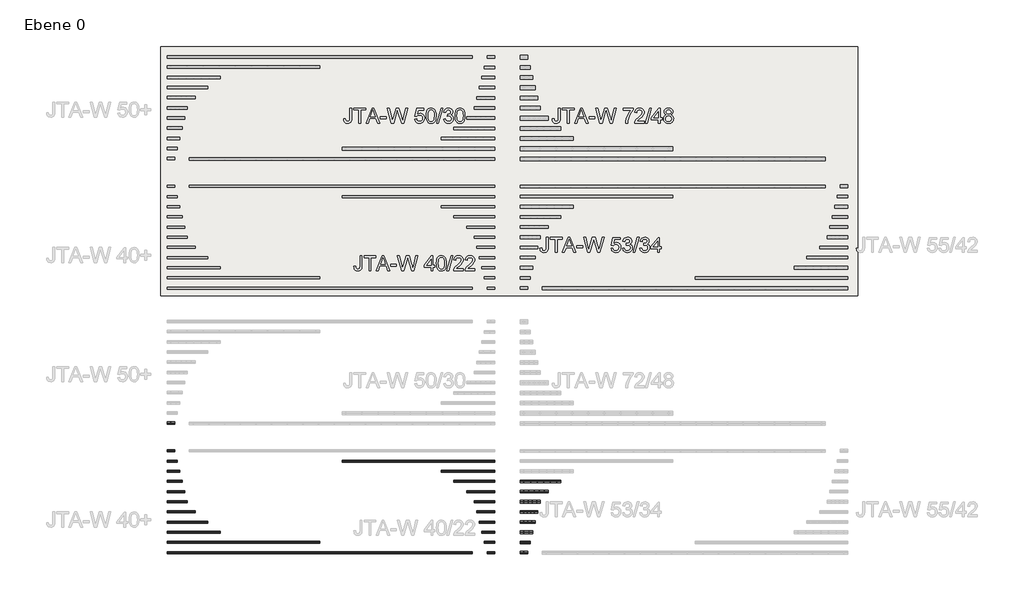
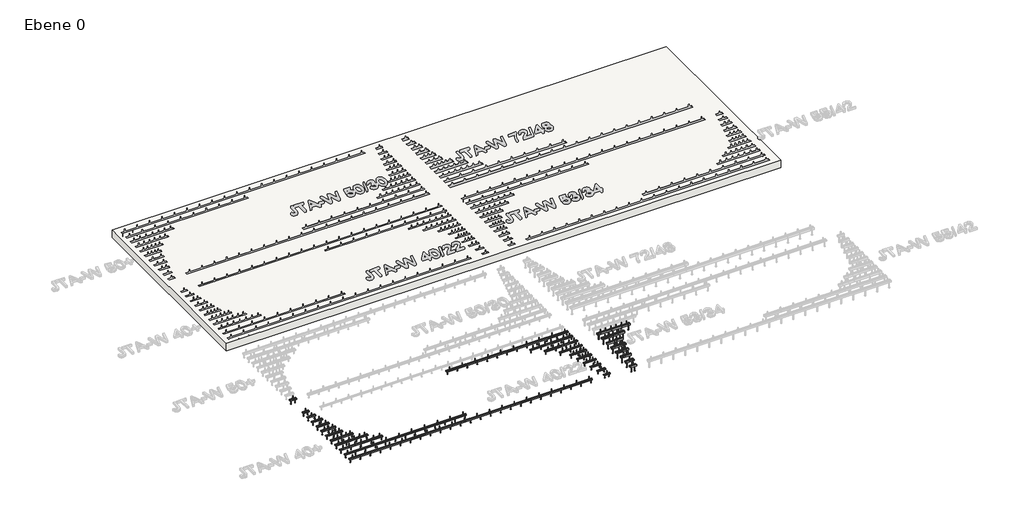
# One storey, part 1 of 5: 30 fasteners, 1 slab.
"""IFC4 building model written with IfcOpenShell, lengths in millimetres."""

from ifc_helpers import new_model, si_unit, origin, place, context, project, spatial, faceted_brep, transform, mapped, element, save
from components import fastener_29043b39, fastener_6a5caa7f, fastener_70fd4501, fastener_dd962dd3, fastener_63425f2b, fastener_02e16a5b, fastener_7793e029, fastener_10b2d5fe, fastener_78868887, fastener_e7c263a5, fastener_f3c3fdf5, fastener_d3d58a7e, fastener_ccbf12a1, fastener_12655446, fastener_6a6cae50, fastener_07762de3, fastener_856946d6, fastener_4e789cc8, fastener_1a17a586, fastener_d3d8a801, fastener_fac80bb2, fastener_f6934170, fastener_d2bac832, fastener_f3e18b2c, fastener_079a92b3, fastener_619edde3, fastener_78b8b859, fastener_af873e41, fastener_db2bdcac, fastener_4b748c20, fastener_e20cea6d, fastener_a5573b8c, fastener_95f84b24, fastener_7f6a9965, fastener_aa8f82e4

model = new_model("IFC4")

# Units and contexts
model_context = context("Model", 3, world=origin())
ifc_project = project(units=[si_unit("LENGTHUNIT", "METRE", prefix="MILLI")], contexts=[model_context])

# Site, building, storey
site = spatial("IfcSite", under=ifc_project)
building = spatial("IfcBuilding", under=site)
storey = spatial("IfcBuildingStorey", under=building, Name="Ebene 0", Elevation=0.0)

# Fasteners
placement = place(None, origin())
fastener_shape = fastener_29043b39(model_context)
element("IfcFastener", 1, ObjectType="JTA-W JORDAHL® AnchorChannels : JTA-W L=300 mm", at=placement, inside=storey, context=model_context, shape_type="MappedRepresentation", body=[
    mapped(fastener_shape, transform((-7643.969712, -1180.7365413, 0.0), x_axis=(1.0, 0.0, 0.0), y_axis=(0.0, 1.0, 0.0), z_axis=(0.0, 0.0, 1.0))),
])
fastener_2_shape = fastener_6a5caa7f(model_context)
fastener_3_shape = fastener_70fd4501(model_context)
fastener_4_shape = fastener_dd962dd3(model_context)
fastener_5_shape = fastener_63425f2b(model_context)
element("IfcFastener", 2, ObjectType="JTA-W JORDAHL® AnchorChannels : JTA-W L=6000 mm", at=placement, inside=storey, context=model_context, shape_type="MappedRepresentation", body=[
    mapped(fastener_2_shape, transform((-7643.969712, -2580.7365413, 0.0), x_axis=(1.0, 0.0, 0.0), y_axis=(0.0, 1.0, 0.0), z_axis=(0.0, 0.0, 1.0))),
    mapped(fastener_3_shape, transform((-7643.969712, -2580.7365413, 0.0), x_axis=(1.0, 0.0, 0.0), y_axis=(0.0, 1.0, 0.0), z_axis=(0.0, 0.0, 1.0))),
    mapped(fastener_4_shape, transform((-7643.969712, -2580.7365413, 0.0), x_axis=(1.0, 0.0, 0.0), y_axis=(0.0, 1.0, 0.0), z_axis=(0.0, 0.0, 1.0))),
    mapped(fastener_5_shape, transform((-7643.969712, -2580.7365413, 0.0), x_axis=(1.0, 0.0, 0.0), y_axis=(0.0, 1.0, 0.0), z_axis=(0.0, 0.0, 1.0))),
])
fastener_6_shape = fastener_02e16a5b(model_context)
fastener_7_shape = fastener_7793e029(model_context)
element("IfcFastener", 3, ObjectType="JTA-W JORDAHL® AnchorChannels : JTA-W L=3000 mm", at=placement, inside=storey, context=model_context, shape_type="MappedRepresentation", body=[
    mapped(fastener_6_shape, transform((-7643.969712, -2380.7365413, 0.0), x_axis=(1.0, 0.0, 0.0), y_axis=(0.0, 1.0, 0.0), z_axis=(0.0, 0.0, 1.0))),
    mapped(fastener_7_shape, transform((-7643.969712, -2380.7365413, 0.0), x_axis=(1.0, 0.0, 0.0), y_axis=(0.0, 1.0, 0.0), z_axis=(0.0, 0.0, 1.0))),
])
fastener_8_shape = fastener_10b2d5fe(model_context)
element("IfcFastener", 4, ObjectType="JTA-W JORDAHL® AnchorChannels : JTA-W L=1050 mm", at=placement, inside=storey, context=model_context, shape_type="MappedRepresentation", body=[
    mapped(fastener_8_shape, transform((-7643.969712, -2180.7365413, 0.0), x_axis=(1.0, 0.0, 0.0), y_axis=(0.0, 1.0, 0.0), z_axis=(0.0, 0.0, 1.0))),
])
fastener_9_shape = fastener_78868887(model_context)
element("IfcFastener", 5, ObjectType="JTA-W JORDAHL® AnchorChannels : JTA-W L=800 mm", at=placement, inside=storey, context=model_context, shape_type="MappedRepresentation", body=[
    mapped(fastener_9_shape, transform((-7643.969712, -1980.7365413, 0.0), x_axis=(1.0, 0.0, 0.0), y_axis=(0.0, 1.0, 0.0), z_axis=(0.0, 0.0, 1.0))),
])
fastener_10_shape = fastener_e7c263a5(model_context)
element("IfcFastener", 6, ObjectType="JTA-W JORDAHL® AnchorChannels : JTA-W L=550 mm", at=placement, inside=storey, context=model_context, shape_type="MappedRepresentation", body=[
    mapped(fastener_10_shape, transform((-7643.969712, -1780.7365413, 0.0), x_axis=(1.0, 0.0, 0.0), y_axis=(0.0, 1.0, 0.0), z_axis=(0.0, 0.0, 1.0))),
])
fastener_11_shape = fastener_f3c3fdf5(model_context)
element("IfcFastener", 7, ObjectType="JTA-W JORDAHL® AnchorChannels : JTA-W L=400 mm", at=placement, inside=storey, context=model_context, shape_type="MappedRepresentation", body=[
    mapped(fastener_11_shape, transform((-7643.969712, -1580.7365413, 0.0), x_axis=(1.0, 0.0, 0.0), y_axis=(0.0, 1.0, 0.0), z_axis=(0.0, 0.0, 1.0))),
])
fastener_12_shape = fastener_d3d58a7e(model_context)
element("IfcFastener", 8, ObjectType="JTA-W JORDAHL® AnchorChannels : JTA-W L=350 mm", at=placement, inside=storey, context=model_context, shape_type="MappedRepresentation", body=[
    mapped(fastener_12_shape, transform((-7643.969712, -1380.7365413, 0.0), x_axis=(1.0, 0.0, 0.0), y_axis=(0.0, 1.0, 0.0), z_axis=(0.0, 0.0, 1.0))),
])
fastener_13_shape = fastener_ccbf12a1(model_context)
element("IfcFastener", 9, ObjectType="JTA-W JORDAHL® AnchorChannels : JTA-W L=250 mm", at=placement, inside=storey, context=model_context, shape_type="MappedRepresentation", body=[
    mapped(fastener_13_shape, transform((-7643.969712, -980.7365413, 0.0), x_axis=(1.0, 0.0, 0.0), y_axis=(0.0, 1.0, 0.0), z_axis=(0.0, 0.0, 1.0))),
])
fastener_14_shape = fastener_12655446(model_context)
element("IfcFastener", 10, ObjectType="JTA-W JORDAHL® AnchorChannels : JTA-W L=200 mm", at=placement, inside=storey, context=model_context, shape_type="MappedRepresentation", body=[
    mapped(fastener_14_shape, transform((-7643.969712, -780.7365413, 0.0), x_axis=(1.0, 0.0, 0.0), y_axis=(0.0, 1.0, 0.0), z_axis=(0.0, 0.0, 1.0))),
])
fastener_15_shape = fastener_6a6cae50(model_context)
element("IfcFastener", 11, ObjectType="JTA-W JORDAHL® AnchorChannels : JTA-W L=150 mm", at=placement, inside=storey, context=model_context, shape_type="MappedRepresentation", body=[
    mapped(fastener_15_shape, transform((-7643.969712, -580.7365413, 0.0), x_axis=(1.0, 0.0, 0.0), y_axis=(0.0, 1.0, 0.0), z_axis=(0.0, 0.0, 1.0))),
])
fastener_16_shape = fastener_07762de3(model_context)
element("IfcFastener", 12, ObjectType="JTA-W JORDAHL® AnchorChannels : JTA-W L=150 mm", at=placement, inside=storey, context=model_context, shape_type="MappedRepresentation", body=[
    mapped(fastener_16_shape, transform((-7643.969712, -35.6932626, 0.0), x_axis=(1.0, 0.0, 0.0), y_axis=(0.0, 1.0, 0.0), z_axis=(0.0, 0.0, 1.0))),
])
fastener_17_shape = fastener_856946d6(model_context)
element("IfcFastener", 13, ObjectType="JTA-W JORDAHL® AnchorChannels : JTA-W L=150 mm", at=placement, inside=storey, context=model_context, shape_type="MappedRepresentation", body=[
    mapped(fastener_17_shape, transform((-1203.969712, -2580.7365413, 0.0), x_axis=(-1.0, 0.0, 0.0), y_axis=(0.0, -1.0, 0.0), z_axis=(0.0, 0.0, 1.0))),
])
fastener_18_shape = fastener_4e789cc8(model_context)
element("IfcFastener", 14, ObjectType="JTA-W JORDAHL® AnchorChannels : JTA-W L=200 mm", at=placement, inside=storey, context=model_context, shape_type="MappedRepresentation", body=[
    mapped(fastener_18_shape, transform((-1203.969712, -2380.7365413, 0.0), x_axis=(-1.0, 0.0, 0.0), y_axis=(0.0, -1.0, 0.0), z_axis=(0.0, 0.0, 1.0))),
])
fastener_19_shape = fastener_1a17a586(model_context)
element("IfcFastener", 15, ObjectType="JTA-W JORDAHL® AnchorChannels : JTA-W L=250 mm", at=placement, inside=storey, context=model_context, shape_type="MappedRepresentation", body=[
    mapped(fastener_19_shape, transform((-1203.969712, -2180.7365413, 0.0), x_axis=(-1.0, 0.0, 0.0), y_axis=(0.0, -1.0, 0.0), z_axis=(0.0, 0.0, 1.0))),
])
fastener_20_shape = fastener_d3d8a801(model_context)
element("IfcFastener", 16, ObjectType="JTA-W JORDAHL® AnchorChannels : JTA-W L=300 mm", at=placement, inside=storey, context=model_context, shape_type="MappedRepresentation", body=[
    mapped(fastener_20_shape, transform((-1203.969712, -1980.7365413, 0.0), x_axis=(-1.0, 0.0, 0.0), y_axis=(0.0, -1.0, 0.0), z_axis=(0.0, 0.0, 1.0))),
])
fastener_21_shape = fastener_fac80bb2(model_context)
element("IfcFastener", 17, ObjectType="JTA-W JORDAHL® AnchorChannels : JTA-W L=350 mm", at=placement, inside=storey, context=model_context, shape_type="MappedRepresentation", body=[
    mapped(fastener_21_shape, transform((-1203.969712, -1780.7365413, 0.0), x_axis=(-1.0, 0.0, 0.0), y_axis=(0.0, -1.0, 0.0), z_axis=(0.0, 0.0, 1.0))),
])
fastener_22_shape = fastener_f6934170(model_context)
element("IfcFastener", 18, ObjectType="JTA-W JORDAHL® AnchorChannels : JTA-W L=400 mm", at=placement, inside=storey, context=model_context, shape_type="MappedRepresentation", body=[
    mapped(fastener_22_shape, transform((-1203.969712, -1580.7365413, 0.0), x_axis=(-1.0, 0.0, 0.0), y_axis=(0.0, -1.0, 0.0), z_axis=(0.0, 0.0, 1.0))),
])
fastener_23_shape = fastener_d2bac832(model_context)
element("IfcFastener", 19, ObjectType="JTA-W JORDAHL® AnchorChannels : JTA-W L=550 mm", at=placement, inside=storey, context=model_context, shape_type="MappedRepresentation", body=[
    mapped(fastener_23_shape, transform((-1203.969712, -1380.7365413, 0.0), x_axis=(-1.0, 0.0, 0.0), y_axis=(0.0, -1.0, 0.0), z_axis=(0.0, 0.0, 1.0))),
])
fastener_24_shape = fastener_f3e18b2c(model_context)
element("IfcFastener", 20, ObjectType="JTA-W JORDAHL® AnchorChannels : JTA-W L=800 mm", at=placement, inside=storey, context=model_context, shape_type="MappedRepresentation", body=[
    mapped(fastener_24_shape, transform((-1203.969712, -1180.7365413, 0.0), x_axis=(-1.0, 0.0, 0.0), y_axis=(0.0, -1.0, 0.0), z_axis=(0.0, 0.0, 1.0))),
])
fastener_25_shape = fastener_079a92b3(model_context)
element("IfcFastener", 21, ObjectType="JTA-W JORDAHL® AnchorChannels : JTA-W L=1050 mm", at=placement, inside=storey, context=model_context, shape_type="MappedRepresentation", body=[
    mapped(fastener_25_shape, transform((-1203.969712, -980.7365413, 0.0), x_axis=(-1.0, 0.0, 0.0), y_axis=(0.0, -1.0, 0.0), z_axis=(0.0, 0.0, 1.0))),
])
fastener_26_shape = fastener_619edde3(model_context)
fastener_27_shape = fastener_78b8b859(model_context)
element("IfcFastener", 22, ObjectType="JTA-W JORDAHL® AnchorChannels : JTA-W L=3000 mm", at=placement, inside=storey, context=model_context, shape_type="MappedRepresentation", body=[
    mapped(fastener_26_shape, transform((-1203.969712, -780.7365413, 0.0), x_axis=(-1.0, 0.0, 0.0), y_axis=(0.0, -1.0, 0.0), z_axis=(0.0, 0.0, 1.0))),
    mapped(fastener_27_shape, transform((-1203.969712, -780.7365413, 0.0), x_axis=(-1.0, 0.0, 0.0), y_axis=(0.0, -1.0, 0.0), z_axis=(0.0, 0.0, 1.0))),
])
fastener_28_shape = fastener_af873e41(model_context)
element("IfcFastener", 23, ObjectType="JTA-W JORDAHL® AnchorChannels : JTA-W L=150 mm", at=placement, inside=storey, context=model_context, shape_type="MappedRepresentation", body=[
    mapped(fastener_28_shape, transform((-703.969712, -2580.7365413, 0.0), x_axis=(1.0, 0.0, 0.0), y_axis=(0.0, 1.0, 0.0), z_axis=(0.0, 0.0, 1.0))),
])
fastener_29_shape = fastener_db2bdcac(model_context)
element("IfcFastener", 24, ObjectType="JTA-W JORDAHL® AnchorChannels : JTA-W L=200 mm", at=placement, inside=storey, context=model_context, shape_type="MappedRepresentation", body=[
    mapped(fastener_29_shape, transform((-703.969712, -2380.7365413, 0.0), x_axis=(1.0, 0.0, 0.0), y_axis=(0.0, 1.0, 0.0), z_axis=(0.0, 0.0, 1.0))),
])
fastener_30_shape = fastener_4b748c20(model_context)
element("IfcFastener", 25, ObjectType="JTA-W JORDAHL® AnchorChannels : JTA-W L=250 mm", at=placement, inside=storey, context=model_context, shape_type="MappedRepresentation", body=[
    mapped(fastener_30_shape, transform((-703.969712, -2180.7365413, 0.0), x_axis=(1.0, 0.0, 0.0), y_axis=(0.0, 1.0, 0.0), z_axis=(0.0, 0.0, 1.0))),
])
fastener_31_shape = fastener_e20cea6d(model_context)
element("IfcFastener", 26, ObjectType="JTA-W JORDAHL® AnchorChannels : JTA-W L=300 mm", at=placement, inside=storey, context=model_context, shape_type="MappedRepresentation", body=[
    mapped(fastener_31_shape, transform((-703.969712, -1980.7365413, 0.0), x_axis=(1.0, 0.0, 0.0), y_axis=(0.0, 1.0, 0.0), z_axis=(0.0, 0.0, 1.0))),
])
fastener_32_shape = fastener_a5573b8c(model_context)
element("IfcFastener", 27, ObjectType="JTA-W JORDAHL® AnchorChannels : JTA-W L=350 mm", at=placement, inside=storey, context=model_context, shape_type="MappedRepresentation", body=[
    mapped(fastener_32_shape, transform((-703.969712, -1780.7365413, 0.0), x_axis=(1.0, 0.0, 0.0), y_axis=(0.0, 1.0, 0.0), z_axis=(0.0, 0.0, 1.0))),
])
fastener_33_shape = fastener_95f84b24(model_context)
element("IfcFastener", 28, ObjectType="JTA-W JORDAHL® AnchorChannels : JTA-W L=400 mm", at=placement, inside=storey, context=model_context, shape_type="MappedRepresentation", body=[
    mapped(fastener_33_shape, transform((-703.969712, -1580.7365413, 0.0), x_axis=(1.0, 0.0, 0.0), y_axis=(0.0, 1.0, 0.0), z_axis=(0.0, 0.0, 1.0))),
])
fastener_34_shape = fastener_7f6a9965(model_context)
element("IfcFastener", 29, ObjectType="JTA-W JORDAHL® AnchorChannels : JTA-W L=550 mm", at=placement, inside=storey, context=model_context, shape_type="MappedRepresentation", body=[
    mapped(fastener_34_shape, transform((-703.969712, -1380.7365413, 0.0), x_axis=(1.0, 0.0, 0.0), y_axis=(0.0, 1.0, 0.0), z_axis=(0.0, 0.0, 1.0))),
])
fastener_35_shape = fastener_aa8f82e4(model_context)
element("IfcFastener", 30, ObjectType="JTA-W JORDAHL® AnchorChannels : JTA-W L=800 mm", at=placement, inside=storey, context=model_context, shape_type="MappedRepresentation", body=[
    mapped(fastener_35_shape, transform((-703.969712, -1180.7365413, 0.0), x_axis=(1.0, 0.0, 0.0), y_axis=(0.0, 1.0, 0.0), z_axis=(0.0, 0.0, 1.0))),
])

# Slab
element("IfcSlab", 31, ObjectType="STB 20.0", at=placement, inside=storey, context=model_context, shape_type="Brep", body=[
    faceted_brep([(5934.7494965, 7368.5000502, -200.0), (5934.7494965, 2468.5000502, -200.0), (-7765.2505035, 2468.5000502, -200.0), (-7765.2505035, 7368.5000502, -200.0), (5934.7494965, 2468.5000502, 0.0), (5934.7494965, 7368.5000502, 0.0), (-7765.2505035, 7368.5000502, 0.0), (-7765.2505035, 2468.5000502, 0.0), (-7643.969712, 2599.2634587, 0.0), (-7643.969712, 2639.2634587, 0.0), (-1643.969712, 2639.2634587, 0.0), (-1643.969712, 2599.2634587, 0.0), (-4643.969712, 2839.2634587, 0.0), (-4643.969712, 2799.2634587, 0.0), (-7643.969712, 2799.2634587, 0.0), (-7643.969712, 2839.2634587, 0.0), (-6593.969712, 3039.2634587, 0.0), (-6593.969712, 2999.2634587, 0.0), (-7643.969712, 2999.2634587, 0.0), (-7643.969712, 3039.2634587, 0.0), (-6843.969712, 3239.2634587, 0.0), (-6843.969712, 3199.2634587, 0.0), (-7643.969712, 3199.2634587, 0.0), (-7643.969712, 3239.2634587, 0.0), (-7093.969712, 3439.2634587, 0.0), (-7093.969712, 3399.2634587, 0.0), (-7643.969712, 3399.2634587, 0.0), (-7643.969712, 3439.2634587, 0.0), (-7243.969712, 3639.2634587, 0.0), (-7243.969712, 3599.2634587, 0.0), (-7643.969712, 3599.2634587, 0.0), (-7643.969712, 3639.2634587, 0.0), (-7293.969712, 3839.2634587, 0.0), (-7293.969712, 3799.2634587, 0.0), (-7643.969712, 3799.2634587, 0.0), (-7643.969712, 3839.2634587, 0.0), (-7343.969712, 4039.2634587, 0.0), (-7343.969712, 3999.2634587, 0.0), (-7643.969712, 3999.2634587, 0.0), (-7643.969712, 4039.2634587, 0.0), (-7393.969712, 4239.2634587, 0.0), (-7393.969712, 4199.2634587, 0.0), (-7643.969712, 4199.2634587, 0.0), (-7643.969712, 4239.2634587, 0.0), (-7443.969712, 4439.2634587, 0.0), (-7443.969712, 4399.2634587, 0.0), (-7643.969712, 4399.2634587, 0.0), (-7643.969712, 4439.2634587, 0.0), (-7493.969712, 4639.2634587, 0.0), (-7493.969712, 4599.2634587, 0.0), (-7643.969712, 4599.2634587, 0.0), (-7643.969712, 4639.2634587, 0.0), (-1643.969712, 7189.3067374, 0.0), (-1643.969712, 7139.3067374, 0.0), (-7643.969712, 7139.3067374, 0.0), (-7643.969712, 7189.3067374, 0.0), (-4643.969712, 6989.3067374, 0.0), (-4643.969712, 6939.3067374, 0.0), (-7643.969712, 6939.3067374, 0.0), (-7643.969712, 6989.3067374, 0.0), (-6593.969712, 6789.3067374, 0.0), (-6593.969712, 6739.3067374, 0.0), (-7643.969712, 6739.3067374, 0.0), (-7643.969712, 6789.3067374, 0.0), (-6843.969712, 6589.3067374, 0.0), (-6843.969712, 6539.3067374, 0.0), (-7643.969712, 6539.3067374, 0.0), (-7643.969712, 6589.3067374, 0.0), (-7093.969712, 6389.3067374, 0.0), (-7093.969712, 6339.3067374, 0.0), (-7643.969712, 6339.3067374, 0.0), (-7643.969712, 6389.3067374, 0.0), (-7243.969712, 6189.3067374, 0.0), (-7243.969712, 6139.3067374, 0.0), (-7643.969712, 6139.3067374, 0.0), (-7643.969712, 6189.3067374, 0.0), (-7293.969712, 5989.3067374, 0.0), (-7293.969712, 5939.3067374, 0.0), (-7643.969712, 5939.3067374, 0.0), (-7643.969712, 5989.3067374, 0.0), (-7343.969712, 5789.3067374, 0.0), (-7343.969712, 5739.3067374, 0.0), (-7643.969712, 5739.3067374, 0.0), (-7643.969712, 5789.3067374, 0.0), (-7393.969712, 5589.3067374, 0.0), (-7393.969712, 5539.3067374, 0.0), (-7643.969712, 5539.3067374, 0.0), (-7643.969712, 5589.3067374, 0.0), (-7443.969712, 5389.3067374, 0.0), (-7443.969712, 5339.3067374, 0.0), (-7643.969712, 5339.3067374, 0.0), (-7643.969712, 5389.3067374, 0.0), (-7493.969712, 5189.3067374, 0.0), (-7493.969712, 5139.3067374, 0.0), (-7643.969712, 5139.3067374, 0.0), (-7643.969712, 5189.3067374, 0.0), (-1353.969712, 2599.5134587, 0.0), (-1353.969712, 2639.0134587, 0.0), (-1203.969712, 2639.0134587, 0.0), (-1203.969712, 2599.5134587, 0.0), (-1403.969712, 2799.5134587, 0.0), (-1403.969712, 2839.0134587, 0.0), (-1203.969712, 2839.0134587, 0.0), (-1203.969712, 2799.5134587, 0.0), (-1453.969712, 2999.5134587, 0.0), (-1453.969712, 3039.0134587, 0.0), (-1203.969712, 3039.0134587, 0.0), (-1203.969712, 2999.5134587, 0.0), (-1503.969712, 3199.5134587, 0.0), (-1503.969712, 3239.0134587, 0.0), (-1203.969712, 3239.0134587, 0.0), (-1203.969712, 3199.5134587, 0.0), (-1553.969712, 3399.5134587, 0.0), (-1553.969712, 3439.0134587, 0.0), (-1203.969712, 3439.0134587, 0.0), (-1203.969712, 3399.5134587, 0.0), (-1603.969712, 3599.5134587, 0.0), (-1603.969712, 3639.0134587, 0.0), (-1203.969712, 3639.0134587, 0.0), (-1203.969712, 3599.5134587, 0.0), (-1753.969712, 3799.5134587, 0.0), (-1753.969712, 3839.0134587, 0.0), (-1203.969712, 3839.0134587, 0.0), (-1203.969712, 3799.5134587, 0.0), (-2003.969712, 3999.5134587, 0.0), (-2003.969712, 4039.0134587, 0.0), (-1203.969712, 4039.0134587, 0.0), (-1203.969712, 3999.5134587, 0.0), (-2253.969712, 4199.5134587, 0.0), (-2253.969712, 4239.0134587, 0.0), (-1203.969712, 4239.0134587, 0.0), (-1203.969712, 4199.5134587, 0.0), (-4203.969712, 4399.5134587, 0.0), (-4203.969712, 4439.0134587, 0.0), (-1203.969712, 4439.0134587, 0.0), (-1203.969712, 4399.5134587, 0.0), (-7203.969712, 4599.5134587, 0.0), (-7203.969712, 4639.0134587, 0.0), (-1203.969712, 4639.0134587, 0.0), (-1203.969712, 4599.5134587, 0.0), (-1353.969712, 7134.5134587, 0.0), (-1353.969712, 7184.0134587, 0.0), (-1203.969712, 7184.0134587, 0.0), (-1203.969712, 7134.5134587, 0.0), (-1403.969712, 6934.5134587, 0.0), (-1403.969712, 6984.0134587, 0.0), (-1203.969712, 6984.0134587, 0.0), (-1203.969712, 6934.5134587, 0.0), (-1453.969712, 6734.5134587, 0.0), (-1453.969712, 6784.0134587, 0.0), (-1203.969712, 6784.0134587, 0.0), (-1203.969712, 6734.5134587, 0.0), (-1503.969712, 6534.5134587, 0.0), (-1503.969712, 6584.0134587, 0.0), (-1203.969712, 6584.0134587, 0.0), (-1203.969712, 6534.5134587, 0.0), (-1553.969712, 6334.5134587, 0.0), (-1553.969712, 6384.0134587, 0.0), (-1203.969712, 6384.0134587, 0.0), (-1203.969712, 6334.5134587, 0.0), (-1603.969712, 6134.5134587, 0.0), (-1603.969712, 6184.0134587, 0.0), (-1203.969712, 6184.0134587, 0.0), (-1203.969712, 6134.5134587, 0.0), (-1753.969712, 5934.5134587, 0.0), (-1753.969712, 5984.0134587, 0.0), (-1203.969712, 5984.0134587, 0.0), (-1203.969712, 5934.5134587, 0.0), (-2003.969712, 5734.5134587, 0.0), (-2003.969712, 5784.0134587, 0.0), (-1203.969712, 5784.0134587, 0.0), (-1203.969712, 5734.5134587, 0.0), (-2253.969712, 5534.5134587, 0.0), (-2253.969712, 5584.0134587, 0.0), (-1203.969712, 5584.0134587, 0.0), (-1203.969712, 5534.5134587, 0.0), (-4203.969712, 5334.5134587, 0.0), (-4203.969712, 5384.0134587, 0.0), (-1203.969712, 5384.0134587, 0.0), (-1203.969712, 5334.5134587, 0.0), (-7203.969712, 5134.5134587, 0.0), (-7203.969712, 5184.0134587, 0.0), (-1203.969712, 5184.0134587, 0.0), (-1203.969712, 5134.5134587, 0.0), (-263.969712, 2591.7634587, 0.0), (-263.969712, 2646.7634587, 0.0), (5736.030288, 2646.7634587, 0.0), (5736.030288, 2591.7634587, 0.0), (2736.030288, 2791.7634587, 0.0), (2736.030288, 2846.7634587, 0.0), (5736.030288, 2846.7634587, 0.0), (5736.030288, 2791.7634587, 0.0), (4686.030288, 2991.7634587, 0.0), (4686.030288, 3046.7634587, 0.0), (5736.030288, 3046.7634587, 0.0), (5736.030288, 2991.7634587, 0.0), (4936.030288, 3191.7634587, 0.0), (4936.030288, 3246.7634587, 0.0), (5736.030288, 3246.7634587, 0.0), (5736.030288, 3191.7634587, 0.0), (5186.030288, 3391.7634587, 0.0), (5186.030288, 3446.7634587, 0.0), (5736.030288, 3446.7634587, 0.0), (5736.030288, 3391.7634587, 0.0), (5336.030288, 3591.7634587, 0.0), (5336.030288, 3646.7634587, 0.0), (5736.030288, 3646.7634587, 0.0), (5736.030288, 3591.7634587, 0.0), (5386.030288, 3791.7634587, 0.0), (5386.030288, 3846.7634587, 0.0), (5736.030288, 3846.7634587, 0.0), (5736.030288, 3791.7634587, 0.0), (5436.030288, 3991.7634587, 0.0), (5436.030288, 4046.7634587, 0.0), (5736.030288, 4046.7634587, 0.0), (5736.030288, 3991.7634587, 0.0), (5486.030288, 4191.7634587, 0.0), (5486.030288, 4246.7634587, 0.0), (5736.030288, 4246.7634587, 0.0), (5736.030288, 4191.7634587, 0.0), (5536.030288, 4391.7634587, 0.0), (5536.030288, 4446.7634587, 0.0), (5736.030288, 4446.7634587, 0.0), (5736.030288, 4391.7634587, 0.0), (5586.030288, 4591.7634587, 0.0), (5586.030288, 4646.7634587, 0.0), (5736.030288, 4646.7634587, 0.0), (5736.030288, 4591.7634587, 0.0), (-553.969712, 2645.7634587, 0.0), (-553.969712, 2592.7634587, 0.0), (-703.969712, 2592.7634587, 0.0), (-703.969712, 2645.7634587, 0.0), (-503.969712, 2845.7634587, 0.0), (-503.969712, 2792.7634587, 0.0), (-703.969712, 2792.7634587, 0.0), (-703.969712, 2845.7634587, 0.0), (-453.969712, 3045.7634587, 0.0), (-453.969712, 2992.7634587, 0.0), (-703.969712, 2992.7634587, 0.0), (-703.969712, 3045.7634587, 0.0), (-403.969712, 3245.7634587, 0.0), (-403.969712, 3192.7634587, 0.0), (-703.969712, 3192.7634587, 0.0), (-703.969712, 3245.7634587, 0.0), (-353.969712, 3445.7634587, 0.0), (-353.969712, 3392.7634587, 0.0), (-703.969712, 3392.7634587, 0.0), (-703.969712, 3445.7634587, 0.0), (-303.969712, 3645.7634587, 0.0), (-303.969712, 3592.7634587, 0.0), (-703.969712, 3592.7634587, 0.0), (-703.969712, 3645.7634587, 0.0), (-153.969712, 3845.7634587, 0.0), (-153.969712, 3792.7634587, 0.0), (-703.969712, 3792.7634587, 0.0), (-703.969712, 3845.7634587, 0.0), (96.030288, 4045.7634587, 0.0), (96.030288, 3992.7634587, 0.0), (-703.969712, 3992.7634587, 0.0), (-703.969712, 4045.7634587, 0.0), (346.030288, 4245.7634587, 0.0), (346.030288, 4192.7634587, 0.0), (-703.969712, 4192.7634587, 0.0), (-703.969712, 4245.7634587, 0.0), (2296.030288, 4445.7634587, 0.0), (2296.030288, 4392.7634587, 0.0), (-703.969712, 4392.7634587, 0.0), (-703.969712, 4445.7634587, 0.0), (5296.030288, 4645.7634587, 0.0), (5296.030288, 4592.7634587, 0.0), (-703.969712, 4592.7634587, 0.0), (-703.969712, 4645.7634587, 0.0), (-553.969712, 7195.2634587, 0.0), (-553.969712, 7123.2634587, 0.0), (-703.969712, 7123.2634587, 0.0), (-703.969712, 7195.2634587, 0.0), (-503.969712, 6995.2634587, 0.0), (-503.969712, 6923.2634587, 0.0), (-703.969712, 6923.2634587, 0.0), (-703.969712, 6995.2634587, 0.0), (-453.969712, 6795.2634587, 0.0), (-453.969712, 6723.2634587, 0.0), (-703.969712, 6723.2634587, 0.0), (-703.969712, 6795.2634587, 0.0), (-403.969712, 6595.2634587, 0.0), (-403.969712, 6523.2634587, 0.0), (-703.969712, 6523.2634587, 0.0), (-703.969712, 6595.2634587, 0.0), (-353.969712, 6395.2634587, 0.0), (-353.969712, 6323.2634587, 0.0), (-703.969712, 6323.2634587, 0.0), (-703.969712, 6395.2634587, 0.0), (-303.969712, 6195.2634587, 0.0), (-303.969712, 6123.2634587, 0.0), (-703.969712, 6123.2634587, 0.0), (-703.969712, 6195.2634587, 0.0), (-153.969712, 5995.2634587, 0.0), (-153.969712, 5923.2634587, 0.0), (-703.969712, 5923.2634587, 0.0), (-703.969712, 5995.2634587, 0.0), (96.030288, 5795.2634587, 0.0), (96.030288, 5723.2634587, 0.0), (-703.969712, 5723.2634587, 0.0), (-703.969712, 5795.2634587, 0.0), (346.030288, 5595.2634587, 0.0), (346.030288, 5523.2634587, 0.0), (-703.969712, 5523.2634587, 0.0), (-703.969712, 5595.2634587, 0.0), (2296.030288, 5395.2634587, 0.0), (2296.030288, 5323.2634587, 0.0), (-703.969712, 5323.2634587, 0.0), (-703.969712, 5395.2634587, 0.0), (5296.030288, 5195.2634587, 0.0), (5296.030288, 5123.2634587, 0.0), (-703.969712, 5123.2634587, 0.0), (-703.969712, 5195.2634587, 0.0), (-1643.969712, 2639.2634587, -22.0), (-1643.969712, 2599.2634587, -22.0), (-7643.969712, 2599.2634587, -22.0), (-7643.969712, 2639.2634587, -22.0), (-4643.969712, 2839.2634587, -22.0), (-4643.969712, 2799.2634587, -22.0), (-7643.969712, 2799.2634587, -22.0), (-7643.969712, 2839.2634587, -22.0), (-6593.969712, 3039.2634587, -22.0), (-6593.969712, 2999.2634587, -22.0), (-7643.969712, 2999.2634587, -22.0), (-7643.969712, 3039.2634587, -22.0), (-6843.969712, 3239.2634587, -22.0), (-6843.969712, 3199.2634587, -22.0), (-7643.969712, 3199.2634587, -22.0), (-7643.969712, 3239.2634587, -22.0), (-7093.969712, 3439.2634587, -22.0), (-7093.969712, 3399.2634587, -22.0), (-7643.969712, 3399.2634587, -22.0), (-7643.969712, 3439.2634587, -22.0), (-7243.969712, 3639.2634587, -22.0), (-7243.969712, 3599.2634587, -22.0), (-7643.969712, 3599.2634587, -22.0), (-7643.969712, 3639.2634587, -22.0), (-7293.969712, 3839.2634587, -22.0), (-7293.969712, 3799.2634587, -22.0), (-7643.969712, 3799.2634587, -22.0), (-7643.969712, 3839.2634587, -22.0), (-7343.969712, 4039.2634587, -22.0), (-7343.969712, 3999.2634587, -22.0), (-7643.969712, 3999.2634587, -22.0), (-7643.969712, 4039.2634587, -22.0), (-7393.969712, 4239.2634587, -22.0), (-7393.969712, 4199.2634587, -22.0), (-7643.969712, 4199.2634587, -22.0), (-7643.969712, 4239.2634587, -22.0), (-7443.969712, 4439.2634587, -22.0), (-7443.969712, 4399.2634587, -22.0), (-7643.969712, 4399.2634587, -22.0), (-7643.969712, 4439.2634587, -22.0), (-7493.969712, 4639.2634587, -22.0), (-7493.969712, 4599.2634587, -22.0), (-7643.969712, 4599.2634587, -22.0), (-7643.969712, 4639.2634587, -22.0), (-1643.969712, 7189.3067374, -30.0), (-1643.969712, 7139.3067374, -30.0), (-7643.969712, 7139.3067374, -30.0), (-7643.969712, 7189.3067374, -30.0), (-4643.969712, 6989.3067374, -30.0), (-4643.969712, 6939.3067374, -30.0), (-7643.969712, 6939.3067374, -30.0), (-7643.969712, 6989.3067374, -30.0), (-6593.969712, 6789.3067374, -30.0), (-6593.969712, 6739.3067374, -30.0), (-7643.969712, 6739.3067374, -30.0), (-7643.969712, 6789.3067374, -30.0), (-6843.969712, 6589.3067374, -30.0), (-6843.969712, 6539.3067374, -30.0), (-7643.969712, 6539.3067374, -30.0), (-7643.969712, 6589.3067374, -30.0), (-7093.969712, 6389.3067374, -30.0), (-7093.969712, 6339.3067374, -30.0), (-7643.969712, 6339.3067374, -30.0), (-7643.969712, 6389.3067374, -30.0), (-7243.969712, 6189.3067374, -30.0), (-7243.969712, 6139.3067374, -30.0), (-7643.969712, 6139.3067374, -30.0), (-7643.969712, 6189.3067374, -30.0), (-7293.969712, 5989.3067374, -30.0), (-7293.969712, 5939.3067374, -30.0), (-7643.969712, 5939.3067374, -30.0), (-7643.969712, 5989.3067374, -30.0), (-7343.969712, 5789.3067374, -30.0), (-7343.969712, 5739.3067374, -30.0), (-7643.969712, 5739.3067374, -30.0), (-7643.969712, 5789.3067374, -30.0), (-7393.969712, 5589.3067374, -30.0), (-7393.969712, 5539.3067374, -30.0), (-7643.969712, 5539.3067374, -30.0), (-7643.969712, 5589.3067374, -30.0), (-7443.969712, 5389.3067374, -30.0), (-7443.969712, 5339.3067374, -30.0), (-7643.969712, 5339.3067374, -30.0), (-7643.969712, 5389.3067374, -30.0), (-7493.969712, 5189.3067374, -30.0), (-7493.969712, 5139.3067374, -30.0), (-7643.969712, 5139.3067374, -30.0), (-7643.969712, 5189.3067374, -30.0), (-1353.969712, 2599.5134587, -22.0), (-1353.969712, 2639.0134587, -22.0), (-1203.969712, 2639.0134587, -22.0), (-1203.969712, 2599.5134587, -22.0), (-1403.969712, 2799.5134587, -22.0), (-1403.969712, 2839.0134587, -22.0), (-1203.969712, 2839.0134587, -22.0), (-1203.969712, 2799.5134587, -22.0), (-1453.969712, 2999.5134587, -22.0), (-1453.969712, 3039.0134587, -22.0), (-1203.969712, 3039.0134587, -22.0), (-1203.969712, 2999.5134587, -22.0), (-1503.969712, 3199.5134587, -22.0), (-1503.969712, 3239.0134587, -22.0), (-1203.969712, 3239.0134587, -22.0), (-1203.969712, 3199.5134587, -22.0), (-1553.969712, 3399.5134587, -22.0), (-1553.969712, 3439.0134587, -22.0), (-1203.969712, 3439.0134587, -22.0), (-1203.969712, 3399.5134587, -22.0), (-1603.969712, 3599.5134587, -22.0), (-1603.969712, 3639.0134587, -22.0), (-1203.969712, 3639.0134587, -22.0), (-1203.969712, 3599.5134587, -22.0), (-1753.969712, 3799.5134587, -22.0), (-1753.969712, 3839.0134587, -22.0), (-1203.969712, 3839.0134587, -22.0), (-1203.969712, 3799.5134587, -22.0), (-2003.969712, 3999.5134587, -22.0), (-2003.969712, 4039.0134587, -22.0), (-1203.969712, 4039.0134587, -22.0), (-1203.969712, 3999.5134587, -22.0), (-2253.969712, 4199.5134587, -22.0), (-2253.969712, 4239.0134587, -22.0), (-1203.969712, 4239.0134587, -22.0), (-1203.969712, 4199.5134587, -22.0), (-4203.969712, 4399.5134587, -22.0), (-4203.969712, 4439.0134587, -22.0), (-1203.969712, 4439.0134587, -22.0), (-1203.969712, 4399.5134587, -22.0), (-7203.969712, 4599.5134587, -22.0), (-7203.969712, 4639.0134587, -22.0), (-1203.969712, 4639.0134587, -22.0), (-1203.969712, 4599.5134587, -22.0), (-1353.969712, 7134.5134587, -30.0), (-1353.969712, 7184.0134587, -30.0), (-1203.969712, 7184.0134587, -30.0), (-1203.969712, 7134.5134587, -30.0), (-1403.969712, 6934.5134587, -30.0), (-1403.969712, 6984.0134587, -30.0), (-1203.969712, 6984.0134587, -30.0), (-1203.969712, 6934.5134587, -30.0), (-1453.969712, 6734.5134587, -30.0), (-1453.969712, 6784.0134587, -30.0), (-1203.969712, 6784.0134587, -30.0), (-1203.969712, 6734.5134587, -30.0), (-1503.969712, 6534.5134587, -30.0), (-1503.969712, 6584.0134587, -30.0), (-1203.969712, 6584.0134587, -30.0), (-1203.969712, 6534.5134587, -30.0), (-1553.969712, 6334.5134587, -30.0), (-1553.969712, 6384.0134587, -30.0), (-1203.969712, 6384.0134587, -30.0), (-1203.969712, 6334.5134587, -30.0), (-1603.969712, 6134.5134587, -30.0), (-1603.969712, 6184.0134587, -30.0), (-1203.969712, 6184.0134587, -30.0), (-1203.969712, 6134.5134587, -30.0), (-1753.969712, 5934.5134587, -30.0), (-1753.969712, 5984.0134587, -30.0), (-1203.969712, 5984.0134587, -30.0), (-1203.969712, 5934.5134587, -30.0), (-2003.969712, 5734.5134587, -30.0), (-2003.969712, 5784.0134587, -30.0), (-1203.969712, 5784.0134587, -30.0), (-1203.969712, 5734.5134587, -30.0), (-2253.969712, 5534.5134587, -30.0), (-2253.969712, 5584.0134587, -30.0), (-1203.969712, 5584.0134587, -30.0), (-1203.969712, 5534.5134587, -30.0), (-4203.969712, 5334.5134587, -30.0), (-4203.969712, 5384.0134587, -30.0), (-1203.969712, 5384.0134587, -30.0), (-1203.969712, 5334.5134587, -30.0), (-7203.969712, 5134.5134587, -30.0), (-7203.969712, 5184.0134587, -30.0), (-1203.969712, 5184.0134587, -30.0), (-1203.969712, 5134.5134587, -30.0), (-263.969712, 2591.7634587, -42.0), (-263.969712, 2646.7634587, -42.0), (5736.030288, 2646.7634587, -42.0), (5736.030288, 2591.7634587, -42.0), (2736.030288, 2791.7634587, -42.0), (2736.030288, 2846.7634587, -42.0), (5736.030288, 2846.7634587, -42.0), (5736.030288, 2791.7634587, -42.0), (4686.030288, 2991.7634587, -42.0), (4686.030288, 3046.7634587, -42.0), (5736.030288, 3046.7634587, -42.0), (5736.030288, 2991.7634587, -42.0), (4936.030288, 3191.7634587, -42.0), (4936.030288, 3246.7634587, -42.0), (5736.030288, 3246.7634587, -42.0), (5736.030288, 3191.7634587, -42.0), (5186.030288, 3391.7634587, -42.0), (5186.030288, 3446.7634587, -42.0), (5736.030288, 3446.7634587, -42.0), (5736.030288, 3391.7634587, -42.0), (5336.030288, 3591.7634587, -42.0), (5336.030288, 3646.7634587, -42.0), (5736.030288, 3646.7634587, -42.0), (5736.030288, 3591.7634587, -42.0), (5386.030288, 3791.7634587, -42.0), (5386.030288, 3846.7634587, -42.0), (5736.030288, 3846.7634587, -42.0), (5736.030288, 3791.7634587, -42.0), (5436.030288, 3991.7634587, -42.0), (5436.030288, 4046.7634587, -42.0), (5736.030288, 4046.7634587, -42.0), (5736.030288, 3991.7634587, -42.0), (5486.030288, 4191.7634587, -42.0), (5486.030288, 4246.7634587, -42.0), (5736.030288, 4246.7634587, -42.0), (5736.030288, 4191.7634587, -42.0), (5536.030288, 4391.7634587, -42.0), (5536.030288, 4446.7634587, -42.0), (5736.030288, 4446.7634587, -42.0), (5736.030288, 4391.7634587, -42.0), (5586.030288, 4591.7634587, -42.0), (5586.030288, 4646.7634587, -42.0), (5736.030288, 4646.7634587, -42.0), (5736.030288, 4591.7634587, -42.0), (-553.969712, 2645.7634587, -34.0), (-553.969712, 2592.7634587, -34.0), (-703.969712, 2592.7634587, -34.0), (-703.969712, 2645.7634587, -34.0), (-503.969712, 2845.7634587, -34.0), (-503.969712, 2792.7634587, -34.0), (-703.969712, 2792.7634587, -34.0), (-703.969712, 2845.7634587, -34.0), (-453.969712, 3045.7634587, -34.0), (-453.969712, 2992.7634587, -34.0), (-703.969712, 2992.7634587, -34.0), (-703.969712, 3045.7634587, -34.0), (-403.969712, 3245.7634587, -34.0), (-403.969712, 3192.7634587, -34.0), (-703.969712, 3192.7634587, -34.0), (-703.969712, 3245.7634587, -34.0), (-353.969712, 3445.7634587, -34.0), (-353.969712, 3392.7634587, -34.0), (-703.969712, 3392.7634587, -34.0), (-703.969712, 3445.7634587, -34.0), (-303.969712, 3645.7634587, -34.0), (-303.969712, 3592.7634587, -34.0), (-703.969712, 3592.7634587, -34.0), (-703.969712, 3645.7634587, -34.0), (-153.969712, 3845.7634587, -34.0), (-153.969712, 3792.7634587, -34.0), (-703.969712, 3792.7634587, -34.0), (-703.969712, 3845.7634587, -34.0), (96.030288, 4045.7634587, -34.0), (96.030288, 3992.7634587, -34.0), (-703.969712, 3992.7634587, -34.0), (-703.969712, 4045.7634587, -34.0), (346.030288, 4245.7634587, -34.0), (346.030288, 4192.7634587, -34.0), (-703.969712, 4192.7634587, -34.0), (-703.969712, 4245.7634587, -34.0), (2296.030288, 4445.7634587, -34.0), (2296.030288, 4392.7634587, -34.0), (-703.969712, 4392.7634587, -34.0), (-703.969712, 4445.7634587, -34.0), (5296.030288, 4645.7634587, -34.0), (5296.030288, 4592.7634587, -34.0), (-703.969712, 4592.7634587, -34.0), (-703.969712, 4645.7634587, -34.0), (-553.969712, 7195.2634587, -48.0), (-553.969712, 7123.2634587, -48.0), (-703.969712, 7123.2634587, -48.0), (-703.969712, 7195.2634587, -48.0), (-503.969712, 6995.2634587, -48.0), (-503.969712, 6923.2634587, -48.0), (-703.969712, 6923.2634587, -48.0), (-703.969712, 6995.2634587, -48.0), (-453.969712, 6795.2634587, -48.0), (-453.969712, 6723.2634587, -48.0), (-703.969712, 6723.2634587, -48.0), (-703.969712, 6795.2634587, -48.0), (-403.969712, 6595.2634587, -48.0), (-403.969712, 6523.2634587, -48.0), (-703.969712, 6523.2634587, -48.0), (-703.969712, 6595.2634587, -48.0), (-353.969712, 6395.2634587, -48.0), (-353.969712, 6323.2634587, -48.0), (-703.969712, 6323.2634587, -48.0), (-703.969712, 6395.2634587, -48.0), (-303.969712, 6195.2634587, -48.0), (-303.969712, 6123.2634587, -48.0), (-703.969712, 6123.2634587, -48.0), (-703.969712, 6195.2634587, -48.0), (-153.969712, 5995.2634587, -48.0), (-153.969712, 5923.2634587, -48.0), (-703.969712, 5923.2634587, -48.0), (-703.969712, 5995.2634587, -48.0), (96.030288, 5795.2634587, -48.0), (96.030288, 5723.2634587, -48.0), (-703.969712, 5723.2634587, -48.0), (-703.969712, 5795.2634587, -48.0), (346.030288, 5595.2634587, -48.0), (346.030288, 5523.2634587, -48.0), (-703.969712, 5523.2634587, -48.0), (-703.969712, 5595.2634587, -48.0), (2296.030288, 5395.2634587, -48.0), (2296.030288, 5323.2634587, -48.0), (-703.969712, 5323.2634587, -48.0), (-703.969712, 5395.2634587, -48.0), (5296.030288, 5195.2634587, -48.0), (5296.030288, 5123.2634587, -48.0), (-703.969712, 5123.2634587, -48.0), (-703.969712, 5195.2634587, -48.0)], [[[0, 1, 2, 3]], [[4, 5, 6, 7], [8, 9, 10, 11], [12, 13, 14, 15], [16, 17, 18, 19], [20, 21, 22, 23], [24, 25, 26, 27], [28, 29, 30, 31], [32, 33, 34, 35], [36, 37, 38, 39], [40, 41, 42, 43], [44, 45, 46, 47], [48, 49, 50, 51], [52, 53, 54, 55], [56, 57, 58, 59], [60, 61, 62, 63], [64, 65, 66, 67], [68, 69, 70, 71], [72, 73, 74, 75], [76, 77, 78, 79], [80, 81, 82, 83], [84, 85, 86, 87], [88, 89, 90, 91], [92, 93, 94, 95], [96, 97, 98, 99], [100, 101, 102, 103], [104, 105, 106, 107], [108, 109, 110, 111], [112, 113, 114, 115], [116, 117, 118, 119], [120, 121, 122, 123], [124, 125, 126, 127], [128, 129, 130, 131], [132, 133, 134, 135], [136, 137, 138, 139], [140, 141, 142, 143], [144, 145, 146, 147], [148, 149, 150, 151], [152, 153, 154, 155], [156, 157, 158, 159], [160, 161, 162, 163], [164, 165, 166, 167], [168, 169, 170, 171], [172, 173, 174, 175], [176, 177, 178, 179], [180, 181, 182, 183], [184, 185, 186, 187], [188, 189, 190, 191], [192, 193, 194, 195], [196, 197, 198, 199], [200, 201, 202, 203], [204, 205, 206, 207], [208, 209, 210, 211], [212, 213, 214, 215], [216, 217, 218, 219], [220, 221, 222, 223], [224, 225, 226, 227], [228, 229, 230, 231], [232, 233, 234, 235], [236, 237, 238, 239], [240, 241, 242, 243], [244, 245, 246, 247], [248, 249, 250, 251], [252, 253, 254, 255], [256, 257, 258, 259], [260, 261, 262, 263], [264, 265, 266, 267], [268, 269, 270, 271], [272, 273, 274, 275], [276, 277, 278, 279], [280, 281, 282, 283], [284, 285, 286, 287], [288, 289, 290, 291], [292, 293, 294, 295], [296, 297, 298, 299], [300, 301, 302, 303], [304, 305, 306, 307], [308, 309, 310, 311], [312, 313, 314, 315]], [[1, 0, 5, 4]], [[2, 1, 4, 7]], [[3, 2, 7, 6]], [[0, 3, 6, 5]], [[10, 316, 317, 11]], [[8, 318, 319, 9]], [[11, 317, 318, 8]], [[317, 316, 319, 318]], [[316, 10, 9, 319]], [[12, 320, 321, 13]], [[14, 322, 323, 15]], [[13, 321, 322, 14]], [[321, 320, 323, 322]], [[320, 12, 15, 323]], [[16, 324, 325, 17]], [[18, 326, 327, 19]], [[17, 325, 326, 18]], [[325, 324, 327, 326]], [[324, 16, 19, 327]], [[20, 328, 329, 21]], [[22, 330, 331, 23]], [[21, 329, 330, 22]], [[329, 328, 331, 330]], [[328, 20, 23, 331]], [[24, 332, 333, 25]], [[26, 334, 335, 27]], [[25, 333, 334, 26]], [[333, 332, 335, 334]], [[332, 24, 27, 335]], [[28, 336, 337, 29]], [[30, 338, 339, 31]], [[29, 337, 338, 30]], [[337, 336, 339, 338]], [[336, 28, 31, 339]], [[32, 340, 341, 33]], [[34, 342, 343, 35]], [[33, 341, 342, 34]], [[341, 340, 343, 342]], [[340, 32, 35, 343]], [[36, 344, 345, 37]], [[38, 346, 347, 39]], [[37, 345, 346, 38]], [[345, 344, 347, 346]], [[344, 36, 39, 347]], [[40, 348, 349, 41]], [[42, 350, 351, 43]], [[41, 349, 350, 42]], [[349, 348, 351, 350]], [[348, 40, 43, 351]], [[44, 352, 353, 45]], [[46, 354, 355, 47]], [[45, 353, 354, 46]], [[353, 352, 355, 354]], [[352, 44, 47, 355]], [[48, 356, 357, 49]], [[50, 358, 359, 51]], [[49, 357, 358, 50]], [[357, 356, 359, 358]], [[356, 48, 51, 359]], [[52, 360, 361, 53]], [[54, 362, 363, 55]], [[360, 52, 55, 363]], [[361, 360, 363, 362]], [[53, 361, 362, 54]], [[56, 364, 365, 57]], [[58, 366, 367, 59]], [[364, 56, 59, 367]], [[365, 364, 367, 366]], [[57, 365, 366, 58]], [[60, 368, 369, 61]], [[62, 370, 371, 63]], [[368, 60, 63, 371]], [[369, 368, 371, 370]], [[61, 369, 370, 62]], [[64, 372, 373, 65]], [[66, 374, 375, 67]], [[372, 64, 67, 375]], [[373, 372, 375, 374]], [[65, 373, 374, 66]], [[68, 376, 377, 69]], [[70, 378, 379, 71]], [[376, 68, 71, 379]], [[377, 376, 379, 378]], [[69, 377, 378, 70]], [[72, 380, 381, 73]], [[74, 382, 383, 75]], [[380, 72, 75, 383]], [[381, 380, 383, 382]], [[73, 381, 382, 74]], [[76, 384, 385, 77]], [[78, 386, 387, 79]], [[384, 76, 79, 387]], [[385, 384, 387, 386]], [[77, 385, 386, 78]], [[80, 388, 389, 81]], [[82, 390, 391, 83]], [[388, 80, 83, 391]], [[389, 388, 391, 390]], [[81, 389, 390, 82]], [[84, 392, 393, 85]], [[86, 394, 395, 87]], [[392, 84, 87, 395]], [[393, 392, 395, 394]], [[85, 393, 394, 86]], [[88, 396, 397, 89]], [[90, 398, 399, 91]], [[396, 88, 91, 399]], [[397, 396, 399, 398]], [[89, 397, 398, 90]], [[92, 400, 401, 93]], [[94, 402, 403, 95]], [[400, 92, 95, 403]], [[401, 400, 403, 402]], [[93, 401, 402, 94]], [[96, 404, 405, 97]], [[98, 406, 407, 99]], [[97, 405, 406, 98]], [[405, 404, 407, 406]], [[404, 96, 99, 407]], [[100, 408, 409, 101]], [[102, 410, 411, 103]], [[101, 409, 410, 102]], [[409, 408, 411, 410]], [[408, 100, 103, 411]], [[104, 412, 413, 105]], [[106, 414, 415, 107]], [[105, 413, 414, 106]], [[413, 412, 415, 414]], [[412, 104, 107, 415]], [[108, 416, 417, 109]], [[110, 418, 419, 111]], [[109, 417, 418, 110]], [[417, 416, 419, 418]], [[416, 108, 111, 419]], [[112, 420, 421, 113]], [[114, 422, 423, 115]], [[113, 421, 422, 114]], [[421, 420, 423, 422]], [[420, 112, 115, 423]], [[116, 424, 425, 117]], [[118, 426, 427, 119]], [[117, 425, 426, 118]], [[425, 424, 427, 426]], [[424, 116, 119, 427]], [[120, 428, 429, 121]], [[122, 430, 431, 123]], [[121, 429, 430, 122]], [[429, 428, 431, 430]], [[428, 120, 123, 431]], [[124, 432, 433, 125]], [[126, 434, 435, 127]], [[125, 433, 434, 126]], [[433, 432, 435, 434]], [[432, 124, 127, 435]], [[128, 436, 437, 129]], [[130, 438, 439, 131]], [[129, 437, 438, 130]], [[437, 436, 439, 438]], [[436, 128, 131, 439]], [[132, 440, 441, 133]], [[134, 442, 443, 135]], [[133, 441, 442, 134]], [[441, 440, 443, 442]], [[440, 132, 135, 443]], [[136, 444, 445, 137]], [[138, 446, 447, 139]], [[137, 445, 446, 138]], [[445, 444, 447, 446]], [[444, 136, 139, 447]], [[140, 448, 449, 141]], [[142, 450, 451, 143]], [[448, 140, 143, 451]], [[449, 448, 451, 450]], [[141, 449, 450, 142]], [[144, 452, 453, 145]], [[146, 454, 455, 147]], [[452, 144, 147, 455]], [[453, 452, 455, 454]], [[145, 453, 454, 146]], [[148, 456, 457, 149]], [[150, 458, 459, 151]], [[456, 148, 151, 459]], [[457, 456, 459, 458]], [[149, 457, 458, 150]], [[152, 460, 461, 153]], [[154, 462, 463, 155]], [[460, 152, 155, 463]], [[461, 460, 463, 462]], [[153, 461, 462, 154]], [[156, 464, 465, 157]], [[158, 466, 467, 159]], [[464, 156, 159, 467]], [[465, 464, 467, 466]], [[157, 465, 466, 158]], [[160, 468, 469, 161]], [[162, 470, 471, 163]], [[468, 160, 163, 471]], [[469, 468, 471, 470]], [[161, 469, 470, 162]], [[164, 472, 473, 165]], [[166, 474, 475, 167]], [[472, 164, 167, 475]], [[473, 472, 475, 474]], [[165, 473, 474, 166]], [[168, 476, 477, 169]], [[170, 478, 479, 171]], [[476, 168, 171, 479]], [[477, 476, 479, 478]], [[169, 477, 478, 170]], [[172, 480, 481, 173]], [[174, 482, 483, 175]], [[480, 172, 175, 483]], [[481, 480, 483, 482]], [[173, 481, 482, 174]], [[176, 484, 485, 177]], [[178, 486, 487, 179]], [[484, 176, 179, 487]], [[485, 484, 487, 486]], [[177, 485, 486, 178]], [[180, 488, 489, 181]], [[182, 490, 491, 183]], [[488, 180, 183, 491]], [[489, 488, 491, 490]], [[181, 489, 490, 182]], [[184, 492, 493, 185]], [[186, 494, 495, 187]], [[492, 184, 187, 495]], [[493, 492, 495, 494]], [[185, 493, 494, 186]], [[188, 496, 497, 189]], [[190, 498, 499, 191]], [[496, 188, 191, 499]], [[497, 496, 499, 498]], [[189, 497, 498, 190]], [[192, 500, 501, 193]], [[194, 502, 503, 195]], [[500, 192, 195, 503]], [[501, 500, 503, 502]], [[193, 501, 502, 194]], [[196, 504, 505, 197]], [[198, 506, 507, 199]], [[504, 196, 199, 507]], [[505, 504, 507, 506]], [[197, 505, 506, 198]], [[200, 508, 509, 201]], [[202, 510, 511, 203]], [[508, 200, 203, 511]], [[509, 508, 511, 510]], [[201, 509, 510, 202]], [[204, 512, 513, 205]], [[206, 514, 515, 207]], [[512, 204, 207, 515]], [[513, 512, 515, 514]], [[205, 513, 514, 206]], [[208, 516, 517, 209]], [[210, 518, 519, 211]], [[516, 208, 211, 519]], [[517, 516, 519, 518]], [[209, 517, 518, 210]], [[212, 520, 521, 213]], [[214, 522, 523, 215]], [[520, 212, 215, 523]], [[521, 520, 523, 522]], [[213, 521, 522, 214]], [[216, 524, 525, 217]], [[218, 526, 527, 219]], [[524, 216, 219, 527]], [[525, 524, 527, 526]], [[217, 525, 526, 218]], [[220, 528, 529, 221]], [[222, 530, 531, 223]], [[528, 220, 223, 531]], [[529, 528, 531, 530]], [[221, 529, 530, 222]], [[224, 532, 533, 225]], [[226, 534, 535, 227]], [[532, 224, 227, 535]], [[533, 532, 535, 534]], [[225, 533, 534, 226]], [[228, 536, 537, 229]], [[230, 538, 539, 231]], [[536, 228, 231, 539]], [[537, 536, 539, 538]], [[229, 537, 538, 230]], [[232, 540, 541, 233]], [[234, 542, 543, 235]], [[540, 232, 235, 543]], [[541, 540, 543, 542]], [[233, 541, 542, 234]], [[236, 544, 545, 237]], [[238, 546, 547, 239]], [[544, 236, 239, 547]], [[545, 544, 547, 546]], [[237, 545, 546, 238]], [[240, 548, 549, 241]], [[242, 550, 551, 243]], [[548, 240, 243, 551]], [[549, 548, 551, 550]], [[241, 549, 550, 242]], [[244, 552, 553, 245]], [[246, 554, 555, 247]], [[552, 244, 247, 555]], [[553, 552, 555, 554]], [[245, 553, 554, 246]], [[248, 556, 557, 249]], [[250, 558, 559, 251]], [[556, 248, 251, 559]], [[557, 556, 559, 558]], [[249, 557, 558, 250]], [[252, 560, 561, 253]], [[254, 562, 563, 255]], [[560, 252, 255, 563]], [[561, 560, 563, 562]], [[253, 561, 562, 254]], [[256, 564, 565, 257]], [[258, 566, 567, 259]], [[564, 256, 259, 567]], [[565, 564, 567, 566]], [[257, 565, 566, 258]], [[260, 568, 569, 261]], [[262, 570, 571, 263]], [[568, 260, 263, 571]], [[569, 568, 571, 570]], [[261, 569, 570, 262]], [[264, 572, 573, 265]], [[266, 574, 575, 267]], [[572, 264, 267, 575]], [[573, 572, 575, 574]], [[265, 573, 574, 266]], [[268, 576, 577, 269]], [[270, 578, 579, 271]], [[576, 268, 271, 579]], [[577, 576, 579, 578]], [[269, 577, 578, 270]], [[272, 580, 581, 273]], [[274, 582, 583, 275]], [[273, 581, 582, 274]], [[581, 580, 583, 582]], [[580, 272, 275, 583]], [[276, 584, 585, 277]], [[278, 586, 587, 279]], [[277, 585, 586, 278]], [[585, 584, 587, 586]], [[584, 276, 279, 587]], [[280, 588, 589, 281]], [[282, 590, 591, 283]], [[281, 589, 590, 282]], [[589, 588, 591, 590]], [[588, 280, 283, 591]], [[284, 592, 593, 285]], [[286, 594, 595, 287]], [[285, 593, 594, 286]], [[593, 592, 595, 594]], [[592, 284, 287, 595]], [[288, 596, 597, 289]], [[290, 598, 599, 291]], [[289, 597, 598, 290]], [[597, 596, 599, 598]], [[596, 288, 291, 599]], [[292, 600, 601, 293]], [[294, 602, 603, 295]], [[293, 601, 602, 294]], [[601, 600, 603, 602]], [[600, 292, 295, 603]], [[296, 604, 605, 297]], [[298, 606, 607, 299]], [[297, 605, 606, 298]], [[605, 604, 607, 606]], [[604, 296, 299, 607]], [[300, 608, 609, 301]], [[302, 610, 611, 303]], [[301, 609, 610, 302]], [[609, 608, 611, 610]], [[608, 300, 303, 611]], [[304, 612, 613, 305]], [[306, 614, 615, 307]], [[305, 613, 614, 306]], [[613, 612, 615, 614]], [[612, 304, 307, 615]], [[308, 616, 617, 309]], [[310, 618, 619, 311]], [[309, 617, 618, 310]], [[617, 616, 619, 618]], [[616, 308, 311, 619]], [[312, 620, 621, 313]], [[314, 622, 623, 315]], [[313, 621, 622, 314]], [[621, 620, 623, 622]], [[620, 312, 315, 623]]]),
])

save(model, "model.ifc")
